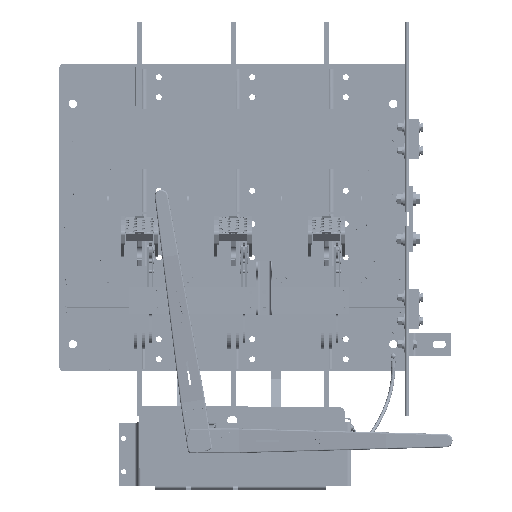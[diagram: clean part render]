
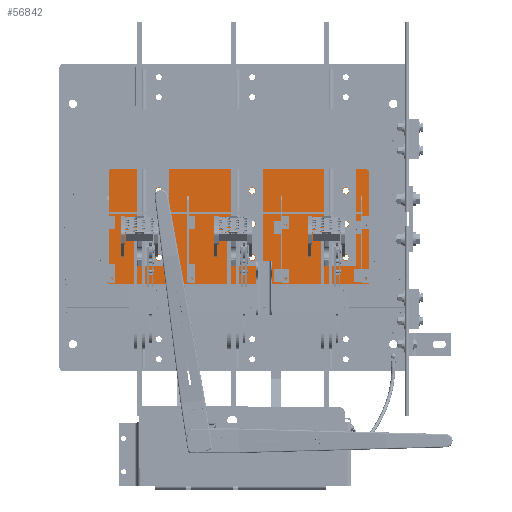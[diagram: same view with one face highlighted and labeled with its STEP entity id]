
A CAD part, top view. The second image highlights one B-rep face of the part: STEP entity #56842.
In plain terms, the highlighted planar face has unit normal (0, 0, 1).
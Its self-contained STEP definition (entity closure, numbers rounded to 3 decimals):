
#2589=FACE_BOUND('',#9204,.T.);
#2590=FACE_BOUND('',#9205,.T.);
#2591=FACE_BOUND('',#9206,.T.);
#2592=FACE_BOUND('',#9207,.T.);
#2593=FACE_BOUND('',#9208,.T.);
#2594=FACE_BOUND('',#9209,.T.);
#2595=FACE_BOUND('',#9210,.T.);
#2596=FACE_BOUND('',#9211,.T.);
#2597=FACE_BOUND('',#9212,.T.);
#2598=FACE_BOUND('',#9213,.T.);
#2599=FACE_BOUND('',#9214,.T.);
#2600=FACE_BOUND('',#9215,.T.);
#2601=FACE_BOUND('',#9216,.T.);
#2602=FACE_BOUND('',#9217,.T.);
#2603=FACE_BOUND('',#9218,.T.);
#2604=FACE_BOUND('',#9219,.T.);
#2605=FACE_BOUND('',#9220,.T.);
#3843=PLANE('',#62093);
#5874=FACE_OUTER_BOUND('',#9203,.T.);
#9203=EDGE_LOOP('',(#43191,#43192,#43193,#43194,#43195,#43196));
#9204=EDGE_LOOP('',(#43197));
#9205=EDGE_LOOP('',(#43198));
#9206=EDGE_LOOP('',(#43199));
#9207=EDGE_LOOP('',(#43200));
#9208=EDGE_LOOP('',(#43201));
#9209=EDGE_LOOP('',(#43202));
#9210=EDGE_LOOP('',(#43203));
#9211=EDGE_LOOP('',(#43204));
#9212=EDGE_LOOP('',(#43205));
#9213=EDGE_LOOP('',(#43206));
#9214=EDGE_LOOP('',(#43207));
#9215=EDGE_LOOP('',(#43208));
#9216=EDGE_LOOP('',(#43209));
#9217=EDGE_LOOP('',(#43210));
#9218=EDGE_LOOP('',(#43211));
#9219=EDGE_LOOP('',(#43212));
#9220=EDGE_LOOP('',(#43213));
#13063=CIRCLE('',#61876,0.07);
#13065=CIRCLE('',#61880,0.07);
#13067=CIRCLE('',#61884,0.07);
#13069=CIRCLE('',#61888,0.07);
#13071=CIRCLE('',#61892,0.07);
#13073=CIRCLE('',#61896,0.07);
#13075=CIRCLE('',#61900,0.07);
#13077=CIRCLE('',#61904,0.07);
#13081=CIRCLE('',#61912,0.219);
#13082=CIRCLE('',#61914,0.219);
#13083=CIRCLE('',#61916,0.219);
#13084=CIRCLE('',#61918,0.219);
#13085=CIRCLE('',#61920,0.219);
#13086=CIRCLE('',#61922,0.219);
#13087=CIRCLE('',#61924,0.219);
#13088=CIRCLE('',#61926,0.219);
#13089=CIRCLE('',#61928,0.219);
#13168=CIRCLE('',#62087,0.237);
#13169=CIRCLE('',#62092,0.237);
#16239=LINE('',#87874,#21018);
#16243=LINE('',#87883,#21022);
#16245=LINE('',#87887,#21024);
#16247=LINE('',#87891,#21026);
#21018=VECTOR('',#71290,0.394);
#21022=VECTOR('',#71300,0.394);
#21024=VECTOR('',#71304,0.394);
#21026=VECTOR('',#71308,0.394);
#25991=VERTEX_POINT('',#87415);
#25993=VERTEX_POINT('',#87422);
#25995=VERTEX_POINT('',#87429);
#25997=VERTEX_POINT('',#87436);
#25999=VERTEX_POINT('',#87443);
#26001=VERTEX_POINT('',#87450);
#26003=VERTEX_POINT('',#87457);
#26005=VERTEX_POINT('',#87464);
#26009=VERTEX_POINT('',#87478);
#26010=VERTEX_POINT('',#87482);
#26011=VERTEX_POINT('',#87486);
#26012=VERTEX_POINT('',#87490);
#26013=VERTEX_POINT('',#87494);
#26014=VERTEX_POINT('',#87498);
#26015=VERTEX_POINT('',#87502);
#26016=VERTEX_POINT('',#87506);
#26017=VERTEX_POINT('',#87510);
#26129=VERTEX_POINT('',#87872);
#26130=VERTEX_POINT('',#87873);
#26131=VERTEX_POINT('',#87878);
#26132=VERTEX_POINT('',#87882);
#26133=VERTEX_POINT('',#87886);
#26134=VERTEX_POINT('',#87890);
#32209=EDGE_CURVE('',#25991,#25991,#13063,.T.);
#32212=EDGE_CURVE('',#25993,#25993,#13065,.T.);
#32215=EDGE_CURVE('',#25995,#25995,#13067,.T.);
#32218=EDGE_CURVE('',#25997,#25997,#13069,.T.);
#32221=EDGE_CURVE('',#25999,#25999,#13071,.T.);
#32224=EDGE_CURVE('',#26001,#26001,#13073,.T.);
#32227=EDGE_CURVE('',#26003,#26003,#13075,.T.);
#32230=EDGE_CURVE('',#26005,#26005,#13077,.T.);
#32236=EDGE_CURVE('',#26009,#26009,#13081,.T.);
#32238=EDGE_CURVE('',#26010,#26010,#13082,.T.);
#32240=EDGE_CURVE('',#26011,#26011,#13083,.T.);
#32242=EDGE_CURVE('',#26012,#26012,#13084,.T.);
#32244=EDGE_CURVE('',#26013,#26013,#13085,.T.);
#32246=EDGE_CURVE('',#26014,#26014,#13086,.T.);
#32248=EDGE_CURVE('',#26015,#26015,#13087,.T.);
#32250=EDGE_CURVE('',#26016,#26016,#13088,.T.);
#32252=EDGE_CURVE('',#26017,#26017,#13089,.T.);
#32423=EDGE_CURVE('',#26129,#26130,#16239,.T.);
#32426=EDGE_CURVE('',#26130,#26131,#13168,.T.);
#32428=EDGE_CURVE('',#26131,#26132,#16243,.T.);
#32430=EDGE_CURVE('',#26132,#26133,#16245,.T.);
#32432=EDGE_CURVE('',#26133,#26134,#16247,.T.);
#32434=EDGE_CURVE('',#26134,#26129,#13169,.T.);
#43191=ORIENTED_EDGE('',*,*,#32423,.F.);
#43192=ORIENTED_EDGE('',*,*,#32434,.F.);
#43193=ORIENTED_EDGE('',*,*,#32432,.F.);
#43194=ORIENTED_EDGE('',*,*,#32430,.F.);
#43195=ORIENTED_EDGE('',*,*,#32428,.F.);
#43196=ORIENTED_EDGE('',*,*,#32426,.F.);
#43197=ORIENTED_EDGE('',*,*,#32209,.T.);
#43198=ORIENTED_EDGE('',*,*,#32212,.T.);
#43199=ORIENTED_EDGE('',*,*,#32215,.T.);
#43200=ORIENTED_EDGE('',*,*,#32218,.T.);
#43201=ORIENTED_EDGE('',*,*,#32221,.T.);
#43202=ORIENTED_EDGE('',*,*,#32224,.T.);
#43203=ORIENTED_EDGE('',*,*,#32227,.T.);
#43204=ORIENTED_EDGE('',*,*,#32230,.T.);
#43205=ORIENTED_EDGE('',*,*,#32236,.T.);
#43206=ORIENTED_EDGE('',*,*,#32238,.T.);
#43207=ORIENTED_EDGE('',*,*,#32240,.T.);
#43208=ORIENTED_EDGE('',*,*,#32242,.T.);
#43209=ORIENTED_EDGE('',*,*,#32244,.T.);
#43210=ORIENTED_EDGE('',*,*,#32246,.T.);
#43211=ORIENTED_EDGE('',*,*,#32248,.T.);
#43212=ORIENTED_EDGE('',*,*,#32250,.T.);
#43213=ORIENTED_EDGE('',*,*,#32252,.T.);
#56842=ADVANCED_FACE('',(#5874,#2589,#2590,#2591,#2592,#2593,#2594,#2595,
#2596,#2597,#2598,#2599,#2600,#2601,#2602,#2603,#2604,#2605),#3843,.T.);
#61876=AXIS2_PLACEMENT_3D('',#87416,#70761,#70762);
#61880=AXIS2_PLACEMENT_3D('',#87423,#70770,#70771);
#61884=AXIS2_PLACEMENT_3D('',#87430,#70779,#70780);
#61888=AXIS2_PLACEMENT_3D('',#87437,#70788,#70789);
#61892=AXIS2_PLACEMENT_3D('',#87444,#70797,#70798);
#61896=AXIS2_PLACEMENT_3D('',#87451,#70806,#70807);
#61900=AXIS2_PLACEMENT_3D('',#87458,#70815,#70816);
#61904=AXIS2_PLACEMENT_3D('',#87465,#70824,#70825);
#61912=AXIS2_PLACEMENT_3D('',#87479,#70842,#70843);
#61914=AXIS2_PLACEMENT_3D('',#87483,#70847,#70848);
#61916=AXIS2_PLACEMENT_3D('',#87487,#70852,#70853);
#61918=AXIS2_PLACEMENT_3D('',#87491,#70857,#70858);
#61920=AXIS2_PLACEMENT_3D('',#87495,#70862,#70863);
#61922=AXIS2_PLACEMENT_3D('',#87499,#70867,#70868);
#61924=AXIS2_PLACEMENT_3D('',#87503,#70872,#70873);
#61926=AXIS2_PLACEMENT_3D('',#87507,#70877,#70878);
#61928=AXIS2_PLACEMENT_3D('',#87511,#70882,#70883);
#62087=AXIS2_PLACEMENT_3D('',#87879,#71295,#71296);
#62092=AXIS2_PLACEMENT_3D('',#87894,#71312,#71313);
#62093=AXIS2_PLACEMENT_3D('',#87895,#71314,#71315);
#70761=DIRECTION('center_axis',(0.,0.,-1.));
#70762=DIRECTION('ref_axis',(-1.,0.,0.));
#70770=DIRECTION('center_axis',(0.,0.,-1.));
#70771=DIRECTION('ref_axis',(-1.,0.,0.));
#70779=DIRECTION('center_axis',(0.,0.,-1.));
#70780=DIRECTION('ref_axis',(-1.,0.,0.));
#70788=DIRECTION('center_axis',(0.,0.,-1.));
#70789=DIRECTION('ref_axis',(-1.,0.,0.));
#70797=DIRECTION('center_axis',(0.,0.,-1.));
#70798=DIRECTION('ref_axis',(-1.,0.,0.));
#70806=DIRECTION('center_axis',(0.,0.,-1.));
#70807=DIRECTION('ref_axis',(-1.,0.,0.));
#70815=DIRECTION('center_axis',(0.,0.,-1.));
#70816=DIRECTION('ref_axis',(-1.,0.,0.));
#70824=DIRECTION('center_axis',(0.,0.,-1.));
#70825=DIRECTION('ref_axis',(-1.,0.,0.));
#70842=DIRECTION('center_axis',(0.,0.,-1.));
#70843=DIRECTION('ref_axis',(-1.,0.,0.));
#70847=DIRECTION('center_axis',(0.,0.,-1.));
#70848=DIRECTION('ref_axis',(-1.,0.,0.));
#70852=DIRECTION('center_axis',(0.,0.,-1.));
#70853=DIRECTION('ref_axis',(-1.,0.,0.));
#70857=DIRECTION('center_axis',(0.,0.,-1.));
#70858=DIRECTION('ref_axis',(-1.,0.,0.));
#70862=DIRECTION('center_axis',(0.,0.,-1.));
#70863=DIRECTION('ref_axis',(-1.,0.,0.));
#70867=DIRECTION('center_axis',(0.,0.,-1.));
#70868=DIRECTION('ref_axis',(-1.,0.,0.));
#70872=DIRECTION('center_axis',(0.,0.,-1.));
#70873=DIRECTION('ref_axis',(-1.,0.,0.));
#70877=DIRECTION('center_axis',(0.,0.,-1.));
#70878=DIRECTION('ref_axis',(-1.,0.,0.));
#70882=DIRECTION('center_axis',(0.,0.,-1.));
#70883=DIRECTION('ref_axis',(-1.,0.,0.));
#71290=DIRECTION('',(1.,0.,0.));
#71295=DIRECTION('center_axis',(0.,0.,-1.));
#71296=DIRECTION('ref_axis',(-1.,0.,0.));
#71300=DIRECTION('',(0.,-1.,0.));
#71304=DIRECTION('',(-1.,0.,0.));
#71308=DIRECTION('',(0.,1.,0.));
#71312=DIRECTION('center_axis',(0.,0.,-1.));
#71313=DIRECTION('ref_axis',(0.,-1.,0.));
#71314=DIRECTION('center_axis',(0.,0.,1.));
#71315=DIRECTION('ref_axis',(1.,0.,0.));
#87415=CARTESIAN_POINT('',(38.758,-12.063,0.5));
#87416=CARTESIAN_POINT('Origin',(38.688,-12.063,0.5));
#87422=CARTESIAN_POINT('',(45.758,-12.063,0.5));
#87423=CARTESIAN_POINT('Origin',(45.688,-12.063,0.5));
#87429=CARTESIAN_POINT('',(51.758,-12.063,0.5));
#87430=CARTESIAN_POINT('Origin',(51.688,-12.063,0.5));
#87436=CARTESIAN_POINT('',(51.758,-16.063,0.5));
#87437=CARTESIAN_POINT('Origin',(51.688,-16.063,0.5));
#87443=CARTESIAN_POINT('',(45.758,-16.063,0.5));
#87444=CARTESIAN_POINT('Origin',(45.688,-16.063,0.5));
#87450=CARTESIAN_POINT('',(38.758,-16.063,0.5));
#87451=CARTESIAN_POINT('Origin',(38.688,-16.063,0.5));
#87457=CARTESIAN_POINT('',(32.758,-16.063,0.5));
#87458=CARTESIAN_POINT('Origin',(32.688,-16.063,0.5));
#87464=CARTESIAN_POINT('',(32.758,-12.063,0.5));
#87465=CARTESIAN_POINT('Origin',(32.688,-12.063,0.5));
#87478=CARTESIAN_POINT('',(50.406,-9.5,0.5));
#87479=CARTESIAN_POINT('Origin',(50.188,-9.5,0.5));
#87482=CARTESIAN_POINT('',(50.406,-12.,0.5));
#87483=CARTESIAN_POINT('Origin',(50.188,-12.,0.5));
#87486=CARTESIAN_POINT('',(50.406,-14.5,0.5));
#87487=CARTESIAN_POINT('Origin',(50.188,-14.5,0.5));
#87490=CARTESIAN_POINT('',(43.406,-9.5,0.5));
#87491=CARTESIAN_POINT('Origin',(43.188,-9.5,0.5));
#87494=CARTESIAN_POINT('',(43.406,-12.,0.5));
#87495=CARTESIAN_POINT('Origin',(43.188,-12.,0.5));
#87498=CARTESIAN_POINT('',(43.406,-14.5,0.5));
#87499=CARTESIAN_POINT('Origin',(43.188,-14.5,0.5));
#87502=CARTESIAN_POINT('',(36.406,-14.5,0.5));
#87503=CARTESIAN_POINT('Origin',(36.188,-14.5,0.5));
#87506=CARTESIAN_POINT('',(36.406,-12.,0.5));
#87507=CARTESIAN_POINT('Origin',(36.188,-12.,0.5));
#87510=CARTESIAN_POINT('',(36.406,-9.5,0.5));
#87511=CARTESIAN_POINT('Origin',(36.188,-9.5,0.5));
#87872=CARTESIAN_POINT('',(32.688,-7.888,0.5));
#87873=CARTESIAN_POINT('',(51.688,-7.888,0.5));
#87874=CARTESIAN_POINT('',(32.688,-7.888,0.5));
#87878=CARTESIAN_POINT('',(51.924,-8.125,0.5));
#87879=CARTESIAN_POINT('Origin',(51.688,-8.125,0.5));
#87882=CARTESIAN_POINT('',(51.924,-16.461,0.5));
#87883=CARTESIAN_POINT('',(51.924,-8.125,0.5));
#87886=CARTESIAN_POINT('',(32.451,-16.461,0.5));
#87887=CARTESIAN_POINT('',(51.938,-16.461,0.5));
#87890=CARTESIAN_POINT('',(32.451,-8.125,0.5));
#87891=CARTESIAN_POINT('',(32.451,-16.474,0.5));
#87894=CARTESIAN_POINT('Origin',(32.688,-8.125,0.5));
#87895=CARTESIAN_POINT('Origin',(42.188,-12.191,0.5));
